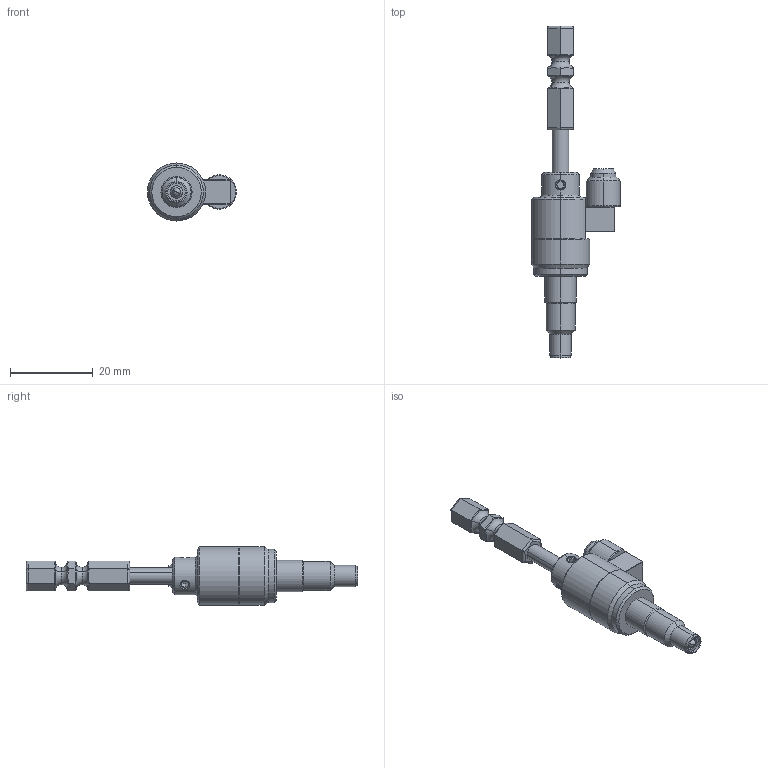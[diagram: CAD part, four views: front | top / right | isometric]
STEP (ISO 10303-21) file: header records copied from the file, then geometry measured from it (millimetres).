
FILE_DESCRIPTION (( 'STEP AP214' ), '1' );
FILE_NAME ('Testina A2.STEP', '2016-05-30T14:19:36', ( '' ), ( '' ), 'SwSTEP 2.0', 'SolidWorks 2016', '' );
FILE_SCHEMA (( 'AUTOMOTIVE_DESIGN' ));
Length unit declared in the file: millimetre
Products named in the file (9): 200039 grano M3x3; Part8; testina aspirazione piccola A2; Testina A2
Assembly tree (5 placements, depth 2):
  200039 grano M3x3
  200039 grano M3x3
  200039 grano M3x3
  Part8
  testina aspirazione piccola A2
Bounding box: 21.45 x 80 x 14 mm (x, y, z)
Volume: 5188.5 mm3; surface area: 4017.2 mm2
Topology: 8 solids, 8 shells, 214 faces, 472 edges, 284 vertices
Faces by surface type: plane 80, cylinder 59, bspline 36, cone 27, torus 12
Entity records: 7687 total; most frequent: CARTESIAN_POINT 3355, ORIENTED_EDGE 832, DIRECTION 739, EDGE_CURVE 416, AXIS2_PLACEMENT_3D 288, VERTEX_POINT 248, EDGE_LOOP 206, FACE_OUTER_BOUND 188
